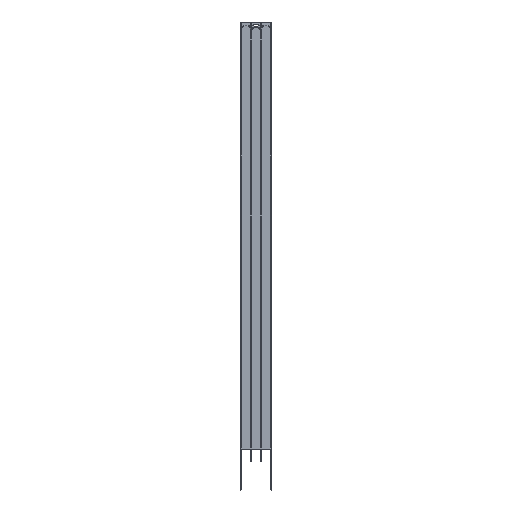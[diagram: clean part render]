
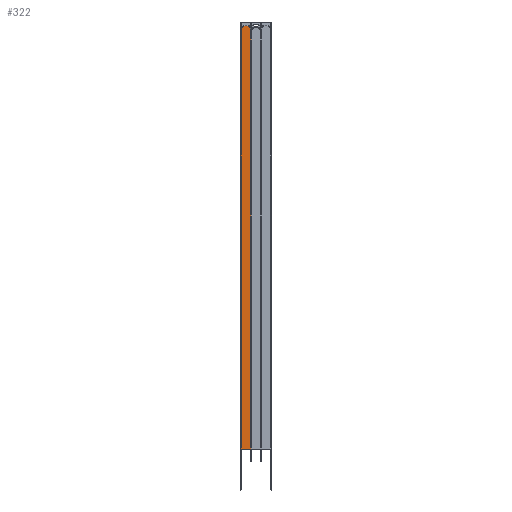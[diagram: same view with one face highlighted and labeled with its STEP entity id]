
A CAD part, top view. The second image highlights one B-rep face of the part: STEP entity #322.
In plain terms, the highlighted planar face has unit normal (0, 0, 1).
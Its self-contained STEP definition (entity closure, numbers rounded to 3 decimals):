
#322=ADVANCED_FACE('',(#602),#513,.T.);
#513=PLANE('',#3423);
#602=FACE_OUTER_BOUND('',#760,.T.);
#760=EDGE_LOOP('',(#1151,#1152,#1153,#1154,#1155,#1156,#1157,#1158,#1159,
#1160,#1161,#1162,#1163,#1164,#1165,#1166));
#992=CIRCLE('',#3418,1.5);
#993=CIRCLE('',#3419,1.5);
#994=CIRCLE('',#3420,1.5);
#995=CIRCLE('',#3421,28.);
#996=CIRCLE('',#3422,1.5);
#1151=ORIENTED_EDGE('',*,*,#2413,.T.);
#1152=ORIENTED_EDGE('',*,*,#2414,.T.);
#1153=ORIENTED_EDGE('',*,*,#2415,.F.);
#1154=ORIENTED_EDGE('',*,*,#2416,.T.);
#1155=ORIENTED_EDGE('',*,*,#2417,.F.);
#1156=ORIENTED_EDGE('',*,*,#2418,.T.);
#1157=ORIENTED_EDGE('',*,*,#2419,.T.);
#1158=ORIENTED_EDGE('',*,*,#2420,.T.);
#1159=ORIENTED_EDGE('',*,*,#2421,.T.);
#1160=ORIENTED_EDGE('',*,*,#2422,.T.);
#1161=ORIENTED_EDGE('',*,*,#2423,.F.);
#1162=ORIENTED_EDGE('',*,*,#2424,.T.);
#1163=ORIENTED_EDGE('',*,*,#2425,.T.);
#1164=ORIENTED_EDGE('',*,*,#2426,.T.);
#1165=ORIENTED_EDGE('',*,*,#2427,.F.);
#1166=ORIENTED_EDGE('',*,*,#2428,.T.);
#2099=VERTEX_POINT('',#4760);
#2100=VERTEX_POINT('',#4761);
#2101=VERTEX_POINT('',#4763);
#2102=VERTEX_POINT('',#4765);
#2103=VERTEX_POINT('',#4767);
#2104=VERTEX_POINT('',#4769);
#2105=VERTEX_POINT('',#4771);
#2106=VERTEX_POINT('',#4773);
#2107=VERTEX_POINT('',#4775);
#2108=VERTEX_POINT('',#4777);
#2109=VERTEX_POINT('',#4779);
#2110=VERTEX_POINT('',#4781);
#2111=VERTEX_POINT('',#4783);
#2112=VERTEX_POINT('',#4785);
#2113=VERTEX_POINT('',#4787);
#2114=VERTEX_POINT('',#4789);
#2413=EDGE_CURVE('',#2099,#2100,#2880,.T.);
#2414=EDGE_CURVE('',#2100,#2101,#2881,.T.);
#2415=EDGE_CURVE('',#2102,#2101,#2882,.T.);
#2416=EDGE_CURVE('',#2102,#2103,#2883,.T.);
#2417=EDGE_CURVE('',#2104,#2103,#2884,.T.);
#2418=EDGE_CURVE('',#2104,#2105,#2885,.T.);
#2419=EDGE_CURVE('',#2105,#2106,#992,.T.);
#2420=EDGE_CURVE('',#2106,#2107,#2886,.T.);
#2421=EDGE_CURVE('',#2107,#2108,#993,.T.);
#2422=EDGE_CURVE('',#2108,#2109,#2887,.T.);
#2423=EDGE_CURVE('',#2110,#2109,#2888,.T.);
#2424=EDGE_CURVE('',#2110,#2111,#994,.T.);
#2425=EDGE_CURVE('',#2111,#2112,#2889,.T.);
#2426=EDGE_CURVE('',#2112,#2113,#995,.T.);
#2427=EDGE_CURVE('',#2114,#2113,#2890,.T.);
#2428=EDGE_CURVE('',#2114,#2099,#996,.T.);
#2880=LINE('',#4759,#3152);
#2881=LINE('',#4762,#3153);
#2882=LINE('',#4764,#3154);
#2883=LINE('',#4766,#3155);
#2884=LINE('',#4768,#3156);
#2885=LINE('',#4770,#3157);
#2886=LINE('',#4774,#3158);
#2887=LINE('',#4778,#3159);
#2888=LINE('',#4780,#3160);
#2889=LINE('',#4784,#3161);
#2890=LINE('',#4788,#3162);
#3152=VECTOR('',#3786,1.);
#3153=VECTOR('',#3787,1.);
#3154=VECTOR('',#3788,1.);
#3155=VECTOR('',#3789,1.);
#3156=VECTOR('',#3790,1.);
#3157=VECTOR('',#3791,1.);
#3158=VECTOR('',#3794,1.);
#3159=VECTOR('',#3797,1.);
#3160=VECTOR('',#3798,1.);
#3161=VECTOR('',#3801,1.);
#3162=VECTOR('',#3804,1.);
#3418=AXIS2_PLACEMENT_3D('',#4772,#3792,#3793);
#3419=AXIS2_PLACEMENT_3D('',#4776,#3795,#3796);
#3420=AXIS2_PLACEMENT_3D('',#4782,#3799,#3800);
#3421=AXIS2_PLACEMENT_3D('',#4786,#3802,#3803);
#3422=AXIS2_PLACEMENT_3D('',#4790,#3805,#3806);
#3423=AXIS2_PLACEMENT_3D('',#4791,#3807,#3808);
#3786=DIRECTION('',(0.,-1.,0.));
#3787=DIRECTION('',(0.087,-0.996,0.));
#3788=DIRECTION('',(-1.,0.,0.));
#3789=DIRECTION('',(0.087,0.996,0.));
#3790=DIRECTION('',(0.,-1.,0.));
#3791=DIRECTION('',(-1.,0.,0.));
#3792=DIRECTION('',(0.,0.,-1.));
#3793=DIRECTION('',(1.,0.,0.));
#3794=DIRECTION('',(0.,1.,0.));
#3795=DIRECTION('',(0.,0.,-1.));
#3796=DIRECTION('',(1.,0.,0.));
#3797=DIRECTION('',(1.,0.,0.));
#3798=DIRECTION('',(0.,-1.,0.));
#3799=DIRECTION('',(0.,0.,-1.));
#3800=DIRECTION('',(1.,0.,0.));
#3801=DIRECTION('',(0.,1.,0.));
#3802=DIRECTION('',(0.,0.,1.));
#3803=DIRECTION('',(1.,0.,0.));
#3804=DIRECTION('',(0.,1.,0.));
#3805=DIRECTION('',(0.,0.,-1.));
#3806=DIRECTION('',(1.,0.,0.));
#3807=DIRECTION('',(0.,0.,1.));
#3808=DIRECTION('',(1.,0.,0.));
#4759=CARTESIAN_POINT('',(4.75,2500.,3.));
#4760=CARTESIAN_POINT('',(4.75,2401.171,3.));
#4761=CARTESIAN_POINT('',(4.75,10.,3.));
#4762=CARTESIAN_POINT('',(-211.461,2481.303,3.));
#4763=CARTESIAN_POINT('',(5.625,0.,3.));
#4764=CARTESIAN_POINT('',(2.25,0.,3.));
#4765=CARTESIAN_POINT('',(60.375,0.,3.));
#4766=CARTESIAN_POINT('',(276.994,2475.963,3.));
#4767=CARTESIAN_POINT('',(61.25,10.,3.));
#4768=CARTESIAN_POINT('',(61.25,2500.,3.));
#4769=CARTESIAN_POINT('',(61.25,2354.9,3.));
#4770=CARTESIAN_POINT('',(66.,2354.9,3.));
#4771=CARTESIAN_POINT('',(60.5,2354.9,3.));
#4772=CARTESIAN_POINT('',(60.5,2356.4,3.));
#4773=CARTESIAN_POINT('',(59.,2356.4,3.));
#4774=CARTESIAN_POINT('',(59.,2354.9,3.));
#4775=CARTESIAN_POINT('',(59.,2378.5,3.));
#4776=CARTESIAN_POINT('',(60.5,2378.5,3.));
#4777=CARTESIAN_POINT('',(60.5,2380.,3.));
#4778=CARTESIAN_POINT('',(59.,2380.,3.));
#4779=CARTESIAN_POINT('',(61.25,2380.,3.));
#4780=CARTESIAN_POINT('',(61.25,2500.,3.));
#4781=CARTESIAN_POINT('',(61.25,2401.171,3.));
#4782=CARTESIAN_POINT('',(62.5,2402.,3.));
#4783=CARTESIAN_POINT('',(61.,2402.,3.));
#4784=CARTESIAN_POINT('',(61.,2400.5,3.));
#4785=CARTESIAN_POINT('',(61.,2450.5,3.));
#4786=CARTESIAN_POINT('',(33.,2450.5,3.));
#4787=CARTESIAN_POINT('',(5.,2450.5,3.));
#4788=CARTESIAN_POINT('',(5.,2400.5,3.));
#4789=CARTESIAN_POINT('',(5.,2402.,3.));
#4790=CARTESIAN_POINT('',(3.5,2402.,3.));
#4791=CARTESIAN_POINT('',(2.25,2500.,3.));
